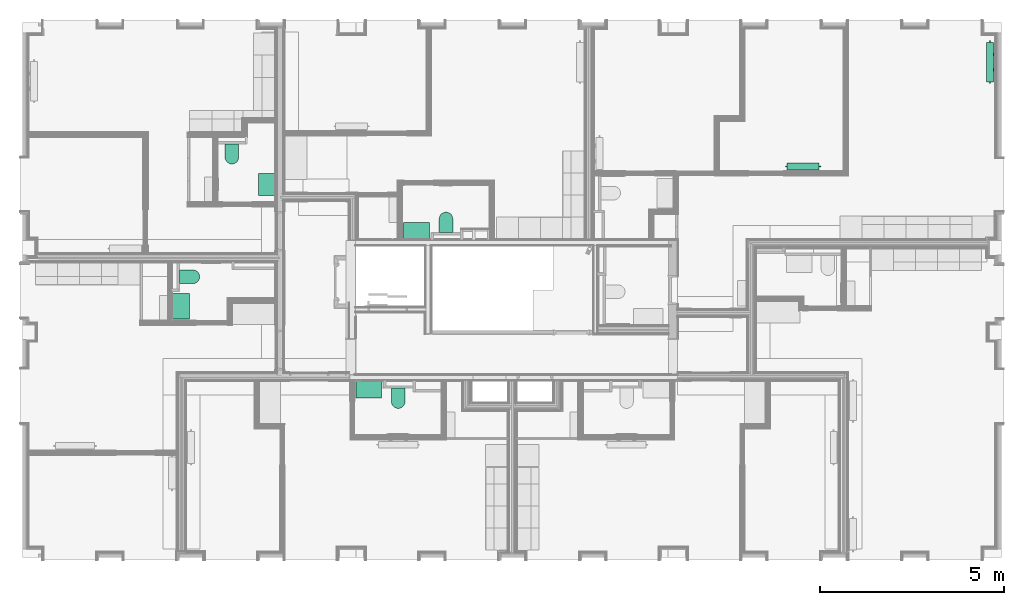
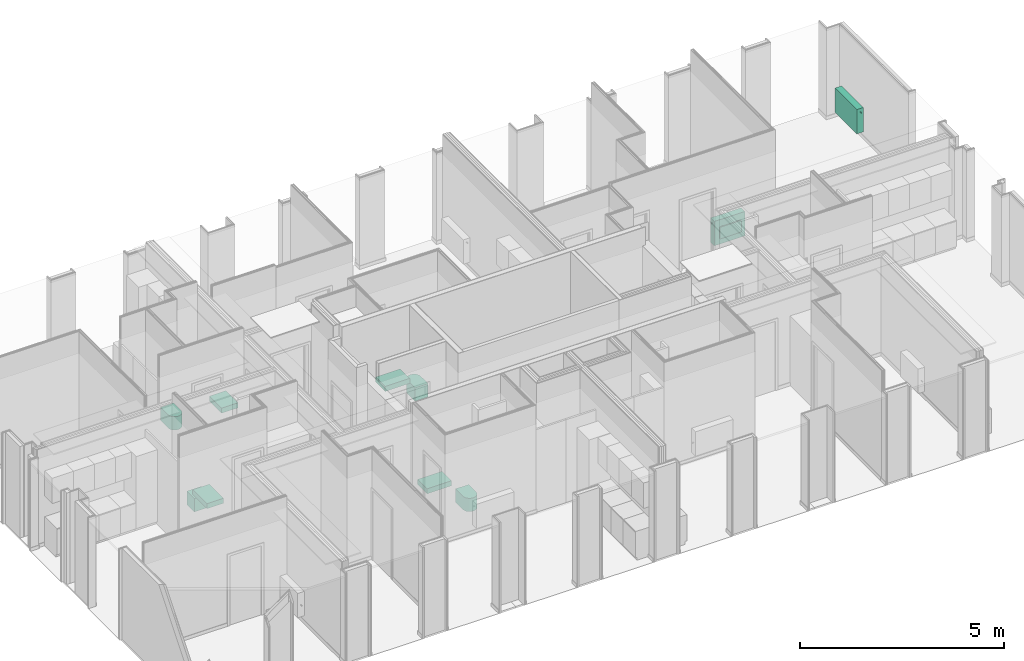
# One storey, part 61 of 65: 10 flow terminals.
"""IFC2X3 building model written with IfcOpenShell, lengths in metres."""

import ifcopenshell
import ifcopenshell.guid

model = None  # the IFC model being written
_history = None  # IfcOwnerHistory: only IFC2X3 demands one
_inside = {}  # id of a spatial element -> (the spatial element, [elements in it])
_under = {}  # id of a project, library or spatial element -> (it, [spatial elements below it])
_declared = {}  # id of a project -> (the project, [libraries it declares])
_typed = {}  # id of a type object -> (the type object, [elements of that type])
_made_of = {}  # id of a material, layer set ... -> (it, [elements and type objects made of it])


def new_model(schema):
    """Start an empty IFC model of exactly this schema.

    Asked for "IFC4X3", IfcOpenShell would pick the latest addendum, in which some entities
    have other attributes; the version numbers below select the first issue.
    IFC2X3 requires an IfcOwnerHistory on every rooted entity: one is made here for all.
    """
    global model, _history
    if schema == "IFC4X3":
        model = ifcopenshell.file(schema_version=(4, 3, 0, 0))
    else:
        model = ifcopenshell.file(schema=schema)
    _inside.clear()
    _under.clear()
    _declared.clear()
    _typed.clear()
    _made_of.clear()
    _history = None
    if model.schema == "IFC2X3":
        org = make("IfcOrganization", Name="unknown")
        user = make(
            "IfcPersonAndOrganization",
            ThePerson=make("IfcPerson", FamilyName="unknown"),
            TheOrganization=org,
        )
        app = make(
            "IfcApplication",
            ApplicationDeveloper=org,
            Version="unknown",
            ApplicationFullName="unknown",
            ApplicationIdentifier="unknown",
        )
        _history = make(
            "IfcOwnerHistory",
            OwningUser=user,
            OwningApplication=app,
            ChangeAction="ADDED",
            CreationDate=0,
        )
    return model


def make(cls, **values):
    """One entity of the class cls with the attributes given. An attribute that is None is left unset."""
    return model.create_entity(
        cls, **{name: value for name, value in values.items() if value is not None}
    )


def entity(cls, *values):
    """Any entity or typed value of the class cls, its attributes in the order of the schema. None: left unset."""
    e = model.create_entity(cls)
    for i, value in enumerate(values):
        if value is not None:
            e[i] = value
    return e


def rooted(cls, **values):
    """An entity with a GlobalId (a new one), such as an element, a storey or a relation."""
    return make(cls, GlobalId=ifcopenshell.guid.new(), OwnerHistory=_history, **values)


def si_unit(unit_type, name, prefix=None):
    """IfcSIUnit, for example si_unit("LENGTHUNIT", "METRE", prefix="MILLI")."""
    return make("IfcSIUnit", UnitType=unit_type, Prefix=prefix, Name=name)


def converted_unit(unit_type, name, factor, base, dimensions=None, offset=None):
    """IfcConversionBasedUnit, such as the inch: factor (a typed value) times the base unit."""
    return make(
        "IfcConversionBasedUnit"
        if offset is None
        else "IfcConversionBasedUnitWithOffset",
        ConversionOffset=offset,
        Dimensions=None
        if dimensions is None
        else entity("IfcDimensionalExponents", *dimensions),
        UnitType=unit_type,
        Name=name,
        ConversionFactor=make(
            "IfcMeasureWithUnit", ValueComponent=factor, UnitComponent=base
        ),
    )


def derived_unit(unit_type, elements):
    """IfcDerivedUnit: a product of units, each with its exponent."""
    return make(
        "IfcDerivedUnit",
        Elements=[
            make("IfcDerivedUnitElement", Unit=unit, Exponent=power)
            for unit, power in elements
        ],
        UnitType=unit_type,
    )


def money_unit(currency):
    """IfcMonetaryUnit."""
    return make("IfcMonetaryUnit", Currency=currency)


def assignment(units):
    """IfcUnitAssignment: the units of a project."""
    return None if units is None else make("IfcUnitAssignment", Units=units)


def point(xyz):
    """IfcCartesianPoint."""
    return None if xyz is None else make("IfcCartesianPoint", Coordinates=xyz)


def direction(xyz):
    """IfcDirection."""
    return None if xyz is None else make("IfcDirection", DirectionRatios=xyz)


def frame(location, z_axis=None, x_axis=None):
    """IfcAxis2Placement3D, a coordinate frame: its origin and axes. An axis left out is left unset."""
    return make(
        "IfcAxis2Placement3D",
        Location=point(location),
        Axis=direction(z_axis),
        RefDirection=direction(x_axis),
    )


def origin_with_axes():
    """The frame at (0, 0, 0) with the z axis (0, 0, 1) and the x axis (1, 0, 0) written out."""
    return frame((0.0, 0.0, 0.0), z_axis=(0.0, 0.0, 1.0), x_axis=(1.0, 0.0, 0.0))


def place(relative_to, where):
    """IfcLocalPlacement: puts the frame where relative to a parent placement (None: the world)."""
    return make(
        "IfcLocalPlacement", PlacementRelTo=relative_to, RelativePlacement=where
    )


def context(
    kind, dimensions, precision=None, world=None, true_north=None, identifier=None
):
    """IfcGeometricRepresentationContext, for example the 3D "Model" context."""
    return make(
        "IfcGeometricRepresentationContext",
        ContextIdentifier=identifier,
        ContextType=kind,
        CoordinateSpaceDimension=dimensions,
        Precision=precision,
        WorldCoordinateSystem=world,
        TrueNorth=true_north,
    )


def subcontext(parent, identifier, kind, view, scale=None):
    """IfcGeometricRepresentationSubContext, for example "Body" below "Model"."""
    return make(
        "IfcGeometricRepresentationSubContext",
        ContextIdentifier=identifier,
        ContextType=kind,
        ParentContext=parent,
        TargetScale=scale,
        TargetView=view,
    )


def project(units=None, contexts=None):
    """IfcProject with its units and contexts."""
    return rooted(
        "IfcProject",
        Name="project",
        RepresentationContexts=contexts,
        UnitsInContext=assignment(units),
    )


def spatial(cls, under=None, at=None, **own):
    """A site, building, storey or space (cls), placed at a placement, below another one or the project."""
    s = rooted(cls, ObjectPlacement=at, **own)
    if under is not None:
        _under.setdefault(under.id(), (under, []))[1].append(s)
    return s


def faces_of(points, faces, orient=None, outer=None):
    """IfcFace entities. A face is a list of loops; a loop is a list of indices into points, from 0.

    orient and outer hold one flag for each loop. By default every Orientation is true, the
    first loop of a face is its IfcFaceOuterBound and the others are IfcFaceBound.
    """
    made = []
    for i, loops in enumerate(faces):
        bounds = []
        for j, loop in enumerate(loops):
            is_outer = j == 0 if outer is None else outer[i][j]
            bounds.append(
                make(
                    "IfcFaceOuterBound" if is_outer else "IfcFaceBound",
                    Bound=make("IfcPolyLoop", Polygon=[points[k] for k in loop]),
                    Orientation=True if orient is None else orient[i][j],
                )
            )
        made.append(make("IfcFace", Bounds=bounds))
    return made


def open_shell(faces, orient=None, outer=None):
    """The faces of one IfcOpenShell. surface_model builds it on its shared points."""
    return ("IfcOpenShell", faces, orient, outer)


def faceted_brep(points, faces, orient=None, outer=None, voids=None):
    """IfcFacetedBrep: a solid bounded by flat faces; with voids (closed shells), ...WithVoids."""
    shared = [point(p) for p in points]
    hull = make("IfcClosedShell", CfsFaces=faces_of(shared, faces, orient, outer))
    if voids is None:
        return make("IfcFacetedBrep", Outer=hull)
    return make(
        "IfcFacetedBrepWithVoids",
        Outer=hull,
        Voids=[
            make(cls, CfsFaces=faces_of(shared, fs, o, b)) for cls, fs, o, b in voids
        ],
    )


def surface_model(cls, points, shells):
    """IfcFaceBasedSurfaceModel or IfcShellBasedSurfaceModel (cls): surfaces that need not close."""
    shared = [point(p) for p in points]
    made = [make(c, CfsFaces=faces_of(shared, fs, o, b)) for c, fs, o, b in shells]
    if cls == "IfcFaceBasedSurfaceModel":
        return make(cls, FbsmFaces=made)
    return make(cls, SbsmBoundary=made)


def shape(context_of_items, identifier, shape_type, items):
    """IfcShapeRepresentation: the items that make up one representation, for example the "Body"."""
    return make(
        "IfcShapeRepresentation",
        ContextOfItems=context_of_items,
        RepresentationIdentifier=identifier,
        RepresentationType=shape_type,
        Items=items,
    )


def material(Name=None, Category=None):
    """IfcMaterial."""
    return make("IfcMaterial", Name=Name, Category=Category)


def made_of(thing, what):
    """Note that an element or type object is made of a material, layer set ...; save() writes the relation."""
    if what is not None:
        _made_of.setdefault(what.id(), (what, []))[1].append(thing)
    return thing


def type_object(cls, material=None, **own):
    """A type object (cls), such as IfcWallType, which elements share."""
    return made_of(rooted(cls, **own), material)


def element(
    cls,
    number,
    at=None,
    inside=None,
    cuts=None,
    type_object=None,
    material=None,
    context=None,
    identifier="Body",
    shape_type=None,
    held_by="IfcProductDefinitionShape",
    body=None,
    shapes=None,
    **own,
):
    """One element of the class cls, such as IfcWall. Its Tag is "e" and its number.

    at: its placement. inside: the storey or other place that contains it. cuts: it is an
    opening in that element (IfcRelVoidsElement). A single representation is given by context,
    identifier, shape_type and body (its items); several are given by shapes. held_by: the class
    of the entity that holds the representations. save() writes the other relations.
    """
    e = rooted(cls, Tag="e%d" % number, ObjectPlacement=at, **own)
    if body is not None:
        shapes = [shape(context, identifier, shape_type, body)]
    if shapes is not None:
        e.Representation = make(held_by, Representations=shapes)
    if inside is not None:
        _inside.setdefault(inside.id(), (inside, []))[1].append(e)
    if cuts is not None:
        rooted(
            "IfcRelVoidsElement", RelatingBuildingElement=cuts, RelatedOpeningElement=e
        )
    if type_object is not None:
        _typed.setdefault(type_object.id(), (type_object, []))[1].append(e)
    return made_of(e, material)


def aggregate(whole, parts):
    """IfcRelAggregates: a whole, such as a stair, and the parts it consists of."""
    return rooted("IfcRelAggregates", RelatingObject=whole, RelatedObjects=parts)


def save(model, path):
    """Write the relations noted so far, then the file.

    IfcRelAggregates (storeys below a building ...), IfcRelContainedInSpatialStructure (elements
    in a storey), IfcRelDefinesByType, IfcRelAssociatesMaterial and IfcRelDeclares: one each for
    every whole, place, type object, material and project.
    """
    for whole, parts in _under.values():
        aggregate(whole, parts)
    for where, things in _inside.values():
        rooted(
            "IfcRelContainedInSpatialStructure",
            RelatedElements=things,
            RelatingStructure=where,
        )
    for kind, things in _typed.values():
        rooted("IfcRelDefinesByType", RelatedObjects=things, RelatingType=kind)
    for what, things in _made_of.values():
        rooted("IfcRelAssociatesMaterial", RelatedObjects=things, RelatingMaterial=what)
    for by, libraries in _declared.values():
        rooted("IfcRelDeclares", RelatingContext=by, RelatedDefinitions=libraries)
    model.write(path)


model = new_model("IFC2X3")

# Units and contexts
model_context = context("Model", 3, precision=1e-05, world=origin_with_axes(), true_north=direction((0.0, 1.0)))
body_context = subcontext(model_context, "Body", "Model", "MODEL_VIEW", scale=1.0)
ifc_project = project(units=[si_unit("LENGTHUNIT", "METRE"), si_unit("AREAUNIT", "SQUARE_METRE"), si_unit("VOLUMEUNIT", "CUBIC_METRE"), si_unit("ABSORBEDDOSEUNIT", "GRAY"), si_unit("AMOUNTOFSUBSTANCEUNIT", "MOLE"), si_unit("DOSEEQUIVALENTUNIT", "SIEVERT"), si_unit("ELECTRICCAPACITANCEUNIT", "FARAD"), si_unit("ELECTRICCHARGEUNIT", "COULOMB"), si_unit("ELECTRICCONDUCTANCEUNIT", "SIEMENS"), si_unit("ELECTRICCURRENTUNIT", "AMPERE"), si_unit("ELECTRICRESISTANCEUNIT", "OHM"), si_unit("ELECTRICVOLTAGEUNIT", "VOLT"), si_unit("ENERGYUNIT", "JOULE"), si_unit("FORCEUNIT", "NEWTON"), si_unit("FREQUENCYUNIT", "HERTZ"), si_unit("ILLUMINANCEUNIT", "LUX"), si_unit("INDUCTANCEUNIT", "HENRY"), si_unit("LUMINOUSFLUXUNIT", "LUMEN"), si_unit("LUMINOUSINTENSITYUNIT", "CANDELA"), si_unit("MAGNETICFLUXDENSITYUNIT", "TESLA"), si_unit("MAGNETICFLUXUNIT", "WEBER"), si_unit("MASSUNIT", "GRAM"), converted_unit("PLANEANGLEUNIT", "degree", entity("IfcReal", 0.0174532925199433), si_unit("PLANEANGLEUNIT", "RADIAN"), dimensions=[0, 0, 0, 0, 0, 0, 0]), si_unit("POWERUNIT", "WATT"), si_unit("PRESSUREUNIT", "PASCAL"), si_unit("RADIOACTIVITYUNIT", "BECQUEREL"), si_unit("SOLIDANGLEUNIT", "STERADIAN"), si_unit("THERMODYNAMICTEMPERATUREUNIT", "KELVIN"), si_unit("TIMEUNIT", "SECOND"), derived_unit("ACCELERATIONUNIT", [(si_unit("LENGTHUNIT", "METRE"), 1), (si_unit("TIMEUNIT", "SECOND"), -2)]), derived_unit("ANGULARVELOCITYUNIT", [(converted_unit("PLANEANGLEUNIT", "degree", entity("IfcReal", 0.0174532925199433), si_unit("PLANEANGLEUNIT", "RADIAN"), dimensions=[0, 0, 0, 0, 0, 0, 0]), 1), (si_unit("TIMEUNIT", "SECOND"), -1)]), derived_unit("CURVATUREUNIT", [(converted_unit("PLANEANGLEUNIT", "degree", entity("IfcReal", 0.0174532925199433), si_unit("PLANEANGLEUNIT", "RADIAN"), dimensions=[0, 0, 0, 0, 0, 0, 0]), 1), (si_unit("LENGTHUNIT", "METRE"), -1)]), derived_unit("DYNAMICVISCOSITYUNIT", [(si_unit("PRESSUREUNIT", "PASCAL"), 1), (si_unit("TIMEUNIT", "SECOND"), 1)]), derived_unit("HEATFLUXDENSITYUNIT", [(si_unit("POWERUNIT", "WATT"), 1), (si_unit("LENGTHUNIT", "METRE"), -2)]), derived_unit("HEATINGVALUEUNIT", [(si_unit("ENERGYUNIT", "JOULE"), 1), (si_unit("MASSUNIT", "GRAM"), -1)]), derived_unit("INTEGERCOUNTRATEUNIT", [(si_unit("TIMEUNIT", "SECOND"), -1)]), derived_unit("IONCONCENTRATIONUNIT", [(si_unit("MASSUNIT", "GRAM"), 1), (si_unit("VOLUMEUNIT", "CUBIC_METRE"), -1)]), derived_unit("ISOTHERMALMOISTURECAPACITYUNIT", [(si_unit("VOLUMEUNIT", "CUBIC_METRE"), 1), (si_unit("MASSUNIT", "GRAM"), -1)]), derived_unit("KINEMATICVISCOSITYUNIT", [(si_unit("AREAUNIT", "SQUARE_METRE"), 1), (si_unit("TIMEUNIT", "SECOND"), -1)]), derived_unit("LINEARFORCEUNIT", [(si_unit("FORCEUNIT", "NEWTON"), 1), (si_unit("LENGTHUNIT", "METRE"), -1)]), derived_unit("LINEARMOMENTUNIT", [(si_unit("FORCEUNIT", "NEWTON"), 1), (si_unit("LENGTHUNIT", "METRE"), -1)]), derived_unit("LINEARSTIFFNESSUNIT", [(si_unit("FORCEUNIT", "NEWTON"), 1), (si_unit("LENGTHUNIT", "METRE"), -1)]), derived_unit("LINEARVELOCITYUNIT", [(si_unit("LENGTHUNIT", "METRE"), 1), (si_unit("TIMEUNIT", "SECOND"), -1)]), derived_unit("LUMINOUSINTENSITYDISTRIBUTIONUNIT", [(si_unit("LUMINOUSINTENSITYUNIT", "CANDELA"), 1), (si_unit("LUMINOUSFLUXUNIT", "LUMEN"), -1)]), derived_unit("MASSDENSITYUNIT", [(si_unit("MASSUNIT", "GRAM"), 1), (si_unit("VOLUMEUNIT", "CUBIC_METRE"), -1)]), derived_unit("MASSFLOWRATEUNIT", [(si_unit("MASSUNIT", "GRAM"), 1), (si_unit("TIMEUNIT", "SECOND"), -1)]), derived_unit("MASSPERLENGTHUNIT", [(si_unit("MASSUNIT", "GRAM"), 1), (si_unit("LENGTHUNIT", "METRE"), -1)]), derived_unit("MODULUSOFELASTICITYUNIT", [(si_unit("FORCEUNIT", "NEWTON"), 1), (si_unit("AREAUNIT", "SQUARE_METRE"), -1)]), derived_unit("MODULUSOFLINEARSUBGRADEREACTIONUNIT", [(si_unit("FORCEUNIT", "NEWTON"), 1), (si_unit("LENGTHUNIT", "METRE"), -2)]), derived_unit("MODULUSOFROTATIONALSUBGRADEREACTIONUNIT", [(si_unit("FORCEUNIT", "NEWTON"), 1), (si_unit("LENGTHUNIT", "METRE"), 1)]), derived_unit("MODULUSOFSUBGRADEREACTIONUNIT", [(si_unit("FORCEUNIT", "NEWTON"), 1), (si_unit("VOLUMEUNIT", "CUBIC_METRE"), -1)]), derived_unit("MOISTUREDIFFUSIVITYUNIT", [(si_unit("VOLUMEUNIT", "CUBIC_METRE"), 1), (si_unit("TIMEUNIT", "SECOND"), -1)]), derived_unit("MOLECULARWEIGHTUNIT", [(si_unit("MASSUNIT", "GRAM"), 1), (si_unit("AMOUNTOFSUBSTANCEUNIT", "MOLE"), -1)]), derived_unit("PLANARFORCEUNIT", [(si_unit("FORCEUNIT", "NEWTON"), 1), (si_unit("LENGTHUNIT", "METRE"), -2)]), derived_unit("ROTATIONALFREQUENCYUNIT", [(si_unit("TIMEUNIT", "SECOND"), -1)]), derived_unit("ROTATIONALMASSUNIT", [(si_unit("MASSUNIT", "GRAM"), 1), (si_unit("LENGTHUNIT", "METRE"), 2)]), derived_unit("ROTATIONALSTIFFNESSUNIT", [(si_unit("FORCEUNIT", "NEWTON"), 1), (si_unit("LENGTHUNIT", "METRE"), 1), (converted_unit("PLANEANGLEUNIT", "degree", entity("IfcReal", 0.0174532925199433), si_unit("PLANEANGLEUNIT", "RADIAN"), dimensions=[0, 0, 0, 0, 0, 0, 0]), -1)]), derived_unit("SECTIONAREAINTEGRALUNIT", [(si_unit("LENGTHUNIT", "METRE"), 5)]), derived_unit("SECTIONMODULUSUNIT", [(si_unit("LENGTHUNIT", "METRE"), 3)]), derived_unit("SHEARMODULUSUNIT", [(si_unit("FORCEUNIT", "NEWTON"), 1), (si_unit("AREAUNIT", "SQUARE_METRE"), -1)]), derived_unit("SOUNDPOWERUNIT", [(si_unit("ENERGYUNIT", "JOULE"), 1), (si_unit("TIMEUNIT", "SECOND"), -1)]), derived_unit("SPECIFICHEATCAPACITYUNIT", [(si_unit("FORCEUNIT", "NEWTON"), 1), (si_unit("MASSUNIT", "GRAM"), -1), (si_unit("THERMODYNAMICTEMPERATUREUNIT", "KELVIN"), -1)]), derived_unit("TEMPERATUREGRADIENTUNIT", [(si_unit("THERMODYNAMICTEMPERATUREUNIT", "KELVIN"), 1), (si_unit("LENGTHUNIT", "METRE"), -1)]), derived_unit("THERMALADMITTANCEUNIT", [(si_unit("POWERUNIT", "WATT"), 1), (si_unit("AREAUNIT", "SQUARE_METRE"), -1), (si_unit("THERMODYNAMICTEMPERATUREUNIT", "KELVIN"), -1)]), derived_unit("THERMALCONDUCTANCEUNIT", [(si_unit("POWERUNIT", "WATT"), 1), (si_unit("LENGTHUNIT", "METRE"), -1), (si_unit("THERMODYNAMICTEMPERATUREUNIT", "KELVIN"), -1)]), derived_unit("THERMALEXPANSIONCOEFFICIENTUNIT", [(si_unit("THERMODYNAMICTEMPERATUREUNIT", "KELVIN"), -1)]), derived_unit("THERMALRESISTANCEUNIT", [(si_unit("AREAUNIT", "SQUARE_METRE"), 1), (si_unit("POWERUNIT", "WATT"), -1)]), derived_unit("THERMALTRANSMITTANCEUNIT", [(si_unit("POWERUNIT", "WATT"), 1), (si_unit("AREAUNIT", "SQUARE_METRE"), -1), (si_unit("THERMODYNAMICTEMPERATUREUNIT", "KELVIN"), -1)]), derived_unit("TORQUEUNIT", [(si_unit("FORCEUNIT", "NEWTON"), 1), (si_unit("LENGTHUNIT", "METRE"), 1)]), derived_unit("VAPORPERMEABILITYUNIT", [(si_unit("MASSUNIT", "GRAM"), 1), (si_unit("TIMEUNIT", "SECOND"), -1)]), derived_unit("VOLUMETRICFLOWRATEUNIT", [(si_unit("VOLUMEUNIT", "CUBIC_METRE"), 1), (si_unit("TIMEUNIT", "SECOND"), -1)]), derived_unit("WARPINGCONSTANTUNIT", [(si_unit("LENGTHUNIT", "METRE"), 6)]), derived_unit("WARPINGMOMENTUNIT", [(si_unit("FORCEUNIT", "NEWTON"), 1), (si_unit("LENGTHUNIT", "METRE"), 2)]), money_unit("GBP")], contexts=[model_context])

# Site, building, storey, space
site_placement = place(None, origin_with_axes())
site = spatial("IfcSite", under=ifc_project, at=site_placement, Name="Site", CompositionType="ELEMENT")
building_placement = place(site_placement, origin_with_axes())
building = spatial("IfcBuilding", under=site, at=building_placement, Name="Building01", CompositionType="ELEMENT")
storey_placement = place(building_placement, frame((0.0, 0.0, 8.64), z_axis=(0.0, 0.0, 1.0), x_axis=(1.0, 0.0, 0.0)))
storey = spatial("IfcBuildingStorey", under=building, at=storey_placement, Name="2F", CompositionType="ELEMENT", Elevation=8.64)
space_1_placement = place(storey_placement, frame((22.624794, 8.82, 0.017975), z_axis=(0.0, 0.0, 1.0), x_axis=(1.0, 0.0, 0.0)))
space_1 = spatial("IfcSpace", under=storey, at=space_1_placement, Name="k/d/l", CompositionType="ELEMENT", InteriorOrExteriorSpace="NOTDEFINED")

# Flow terminal
ifc_material = material(Name="M_BSUK_Ventilation")
space_heater_type = type_object("IfcSpaceHeaterType", Name="M-BmvRadiatorpanel-Panel", PredefinedType="NOTDEFINED")
flow_terminal_1_placement = place(storey_placement, frame((26.50175, 14.187, 0.68), z_axis=(0.0, 0.0, 1.0), x_axis=(0.0, -1.0, 0.0)))
element("IfcFlowTerminal", 1, at=flow_terminal_1_placement, inside=space_1, type_object=space_heater_type, material=ifc_material, Name="M-BmvRadiatorpanel-Panel", ObjectType="M-BmvRadiatorpanel-Panel", context=body_context, shape_type="SurfaceModel", body=[
    surface_model("IfcShellBasedSurfaceModel", [(1.069, -0.0925, 0.365), (1.069, 0.0925, 0.365), (0.0, 0.0925, 0.365), (0.0, -0.0925, 0.365), (1.069, -0.0925, -0.365), (1.069, 0.0925, -0.365), (0.0, -0.0925, -0.365), (0.0, 0.0925, -0.365), (0.2345, 0.12025, 0.175), (0.8345, 0.12025, 0.175), (0.8345, 0.14525, 0.175), (0.2345, 0.14525, 0.175), (0.8345, 0.14525, -0.175), (0.2345, 0.14525, -0.175), (0.8345, 0.12025, -0.175), (0.2345, 0.12025, -0.175), (0.3245, 0.0925, 0.0775), (0.3245, 0.12025, 0.0775), (0.341721, 0.12025, 0.080925), (0.341721, 0.0925, 0.080925), (0.35632, 0.12025, 0.09068), (0.35632, 0.0925, 0.09068), (0.366075, 0.12025, 0.105279), (0.366075, 0.0925, 0.105279), (0.3695, 0.12025, 0.1225), (0.3695, 0.0925, 0.1225), (0.366075, 0.12025, 0.139721), (0.366075, 0.0925, 0.139721), (0.35632, 0.12025, 0.15432), (0.35632, 0.0925, 0.15432), (0.341721, 0.12025, 0.164075), (0.341721, 0.0925, 0.164075), (0.3245, 0.12025, 0.1675), (0.3245, 0.0925, 0.1675), (0.307279, 0.12025, 0.164075), (0.307279, 0.0925, 0.164075), (0.29268, 0.12025, 0.15432), (0.29268, 0.0925, 0.15432), (0.282925, 0.12025, 0.139721), (0.282925, 0.0925, 0.139721), (0.2795, 0.12025, 0.1225), (0.2795, 0.0925, 0.1225), (0.282925, 0.12025, 0.105279), (0.282925, 0.0925, 0.105279), (0.29268, 0.12025, 0.09068), (0.29268, 0.0925, 0.09068), (0.307279, 0.12025, 0.080925), (0.307279, 0.0925, 0.080925), (0.7445, 0.0925, 0.0775), (0.7445, 0.12025, 0.0775), (0.761721, 0.12025, 0.080925), (0.761721, 0.0925, 0.080925), (0.77632, 0.12025, 0.09068), (0.77632, 0.0925, 0.09068), (0.786075, 0.12025, 0.105279), (0.786075, 0.0925, 0.105279), (0.7895, 0.12025, 0.1225), (0.7895, 0.0925, 0.1225), (0.786075, 0.12025, 0.139721), (0.786075, 0.0925, 0.139721), (0.77632, 0.12025, 0.15432), (0.77632, 0.0925, 0.15432), (0.761721, 0.12025, 0.164075), (0.761721, 0.0925, 0.164075), (0.7445, 0.12025, 0.1675), (0.7445, 0.0925, 0.1675), (0.727279, 0.12025, 0.164075), (0.727279, 0.0925, 0.164075), (0.71268, 0.12025, 0.15432), (0.71268, 0.0925, 0.15432), (0.702925, 0.12025, 0.139721), (0.702925, 0.0925, 0.139721), (0.6995, 0.12025, 0.1225), (0.6995, 0.0925, 0.1225), (0.702925, 0.12025, 0.105279), (0.702925, 0.0925, 0.105279), (0.71268, 0.12025, 0.09068), (0.71268, 0.0925, 0.09068), (0.727279, 0.12025, 0.080925), (0.727279, 0.0925, 0.080925), (-0.05, 0.0, -0.0225), (0.0, 0.0, -0.0225), (0.0, -0.004784, -0.021548), (-0.05, -0.004784, -0.021548), (0.0, -0.008839, -0.018839), (-0.05, -0.008839, -0.018839), (0.0, -0.011548, -0.014784), (-0.05, -0.011548, -0.014784), (0.0, -0.0125, -0.01), (-0.05, -0.0125, -0.01), (0.0, -0.011548, -0.005216), (-0.05, -0.011548, -0.005216), (0.0, -0.008839, -0.001161), (-0.05, -0.008839, -0.001161), (0.0, -0.004784, 0.001548), (-0.05, -0.004784, 0.001548), (0.0, 0.0, 0.0025), (-0.05, 0.0, 0.0025), (0.0, 0.004784, 0.001548), (-0.05, 0.004784, 0.001548), (0.0, 0.008839, -0.001161), (-0.05, 0.008839, -0.001161), (0.0, 0.011548, -0.005216), (-0.05, 0.011548, -0.005216), (0.0, 0.0125, -0.01), (-0.05, 0.0125, -0.01), (0.0, 0.011548, -0.014784), (-0.05, 0.011548, -0.014784), (0.0, 0.008839, -0.018839), (-0.05, 0.008839, -0.018839), (0.0, 0.004784, -0.021548), (-0.05, 0.004784, -0.021548), (1.119, 0.0, 0.2525), (1.069, 0.0, 0.2525), (1.069, 0.004784, 0.253452), (1.119, 0.004784, 0.253452), (1.069, 0.008839, 0.256161), (1.119, 0.008839, 0.256161), (1.069, 0.011548, 0.260216), (1.119, 0.011548, 0.260216), (1.069, 0.0125, 0.265), (1.119, 0.0125, 0.265), (1.069, 0.011548, 0.269784), (1.119, 0.011548, 0.269784), (1.069, 0.008839, 0.273839), (1.119, 0.008839, 0.273839), (1.069, 0.004784, 0.276548), (1.119, 0.004784, 0.276548), (1.069, 0.0, 0.2775), (1.119, 0.0, 0.2775), (1.069, -0.004784, 0.276548), (1.119, -0.004784, 0.276548), (1.069, -0.008839, 0.273839), (1.119, -0.008839, 0.273839), (1.069, -0.011548, 0.269784), (1.119, -0.011548, 0.269784), (1.069, -0.0125, 0.265), (1.119, -0.0125, 0.265), (1.069, -0.011548, 0.260216), (1.119, -0.011548, 0.260216), (1.069, -0.008839, 0.256161), (1.119, -0.008839, 0.256161), (1.069, -0.004784, 0.253452), (1.119, -0.004784, 0.253452)], [open_shell([[[0, 1, 2, 3]], [[4, 5, 1, 0]], [[6, 7, 5, 4]], [[3, 2, 7, 6]], [[1, 5, 7, 2]], [[3, 6, 4, 0]], [[8, 9, 10, 11]], [[11, 10, 12, 13]], [[13, 12, 14, 15]], [[15, 14, 9, 8]], [[9, 14, 12, 10]], [[11, 13, 15, 8]], [[16, 17, 18, 19]], [[19, 18, 20, 21]], [[21, 20, 22, 23]], [[23, 22, 24, 25]], [[25, 24, 26, 27]], [[27, 26, 28, 29]], [[29, 28, 30, 31]], [[31, 30, 32, 33]], [[33, 32, 34, 35]], [[35, 34, 36, 37]], [[37, 36, 38, 39]], [[39, 38, 40, 41]], [[41, 40, 42, 43]], [[43, 42, 44, 45]], [[45, 44, 46, 47]], [[47, 46, 17, 16]], [[48, 49, 50, 51]], [[51, 50, 52, 53]], [[53, 52, 54, 55]], [[55, 54, 56, 57]], [[57, 56, 58, 59]], [[59, 58, 60, 61]], [[61, 60, 62, 63]], [[63, 62, 64, 65]], [[65, 64, 66, 67]], [[67, 66, 68, 69]], [[69, 68, 70, 71]], [[71, 70, 72, 73]], [[73, 72, 74, 75]], [[75, 74, 76, 77]], [[77, 76, 78, 79]], [[79, 78, 49, 48]], [[80, 81, 82, 83]], [[83, 82, 84, 85]], [[85, 84, 86, 87]], [[87, 86, 88, 89]], [[89, 88, 90, 91]], [[91, 90, 92, 93]], [[93, 92, 94, 95]], [[95, 94, 96, 97]], [[97, 96, 98, 99]], [[99, 98, 100, 101]], [[101, 100, 102, 103]], [[103, 102, 104, 105]], [[105, 104, 106, 107]], [[107, 106, 108, 109]], [[109, 108, 110, 111]], [[111, 110, 81, 80]], [[112, 113, 114, 115]], [[115, 114, 116, 117]], [[117, 116, 118, 119]], [[119, 118, 120, 121]], [[121, 120, 122, 123]], [[123, 122, 124, 125]], [[125, 124, 126, 127]], [[127, 126, 128, 129]], [[129, 128, 130, 131]], [[131, 130, 132, 133]], [[133, 132, 134, 135]], [[135, 134, 136, 137]], [[137, 136, 138, 139]], [[139, 138, 140, 141]], [[141, 140, 142, 143]], [[143, 142, 113, 112]]])]),
])

# Space
space_2_placement = place(storey_placement, frame((15.83, 8.82, 0.017975), z_axis=(0.0, 0.0, 1.0), x_axis=(0.0, -1.0, 0.0)))
space_2 = spatial("IfcSpace", under=storey, at=space_2_placement, Name="09", CompositionType="ELEMENT", InteriorOrExteriorSpace="NOTDEFINED")

# Flow terminal
flow_terminal_2_placement = place(storey_placement, frame((21.844284, 10.81025, 0.68), z_axis=(0.0, 0.0, 1.0), x_axis=(-1.0, 0.0, 0.0)))
element("IfcFlowTerminal", 2, at=flow_terminal_2_placement, inside=space_2, type_object=space_heater_type, material=ifc_material, Name="M-BmvRadiatorpanel-Panel", ObjectType="M-BmvRadiatorpanel-Panel", context=body_context, shape_type="SurfaceModel", body=[
    surface_model("IfcShellBasedSurfaceModel", [(0.865, -0.0925, 0.365), (0.865, 0.0925, 0.365), (0.0, 0.0925, 0.365), (0.0, -0.0925, 0.365), (0.865, -0.0925, -0.365), (0.865, 0.0925, -0.365), (0.0, -0.0925, -0.365), (0.0, 0.0925, -0.365), (0.1325, 0.12025, 0.175), (0.7325, 0.12025, 0.175), (0.7325, 0.14525, 0.175), (0.1325, 0.14525, 0.175), (0.7325, 0.14525, -0.175), (0.1325, 0.14525, -0.175), (0.7325, 0.12025, -0.175), (0.1325, 0.12025, -0.175), (0.2225, 0.0925, 0.0775), (0.2225, 0.12025, 0.0775), (0.239721, 0.12025, 0.080925), (0.239721, 0.0925, 0.080925), (0.25432, 0.12025, 0.09068), (0.25432, 0.0925, 0.09068), (0.264075, 0.12025, 0.105279), (0.264075, 0.0925, 0.105279), (0.2675, 0.12025, 0.1225), (0.2675, 0.0925, 0.1225), (0.264075, 0.12025, 0.139721), (0.264075, 0.0925, 0.139721), (0.25432, 0.12025, 0.15432), (0.25432, 0.0925, 0.15432), (0.239721, 0.12025, 0.164075), (0.239721, 0.0925, 0.164075), (0.2225, 0.12025, 0.1675), (0.2225, 0.0925, 0.1675), (0.205279, 0.12025, 0.164075), (0.205279, 0.0925, 0.164075), (0.19068, 0.12025, 0.15432), (0.19068, 0.0925, 0.15432), (0.180925, 0.12025, 0.139721), (0.180925, 0.0925, 0.139721), (0.1775, 0.12025, 0.1225), (0.1775, 0.0925, 0.1225), (0.180925, 0.12025, 0.105279), (0.180925, 0.0925, 0.105279), (0.19068, 0.12025, 0.09068), (0.19068, 0.0925, 0.09068), (0.205279, 0.12025, 0.080925), (0.205279, 0.0925, 0.080925), (0.6425, 0.0925, 0.0775), (0.6425, 0.12025, 0.0775), (0.659721, 0.12025, 0.080925), (0.659721, 0.0925, 0.080925), (0.67432, 0.12025, 0.09068), (0.67432, 0.0925, 0.09068), (0.684075, 0.12025, 0.105279), (0.684075, 0.0925, 0.105279), (0.6875, 0.12025, 0.1225), (0.6875, 0.0925, 0.1225), (0.684075, 0.12025, 0.139721), (0.684075, 0.0925, 0.139721), (0.67432, 0.12025, 0.15432), (0.67432, 0.0925, 0.15432), (0.659721, 0.12025, 0.164075), (0.659721, 0.0925, 0.164075), (0.6425, 0.12025, 0.1675), (0.6425, 0.0925, 0.1675), (0.625279, 0.12025, 0.164075), (0.625279, 0.0925, 0.164075), (0.61068, 0.12025, 0.15432), (0.61068, 0.0925, 0.15432), (0.600925, 0.12025, 0.139721), (0.600925, 0.0925, 0.139721), (0.5975, 0.12025, 0.1225), (0.5975, 0.0925, 0.1225), (0.600925, 0.12025, 0.105279), (0.600925, 0.0925, 0.105279), (0.61068, 0.12025, 0.09068), (0.61068, 0.0925, 0.09068), (0.625279, 0.12025, 0.080925), (0.625279, 0.0925, 0.080925), (-0.05, 0.0, -0.0225), (0.0, 0.0, -0.0225), (0.0, -0.004784, -0.021548), (-0.05, -0.004784, -0.021548), (0.0, -0.008839, -0.018839), (-0.05, -0.008839, -0.018839), (0.0, -0.011548, -0.014784), (-0.05, -0.011548, -0.014784), (0.0, -0.0125, -0.01), (-0.05, -0.0125, -0.01), (0.0, -0.011548, -0.005216), (-0.05, -0.011548, -0.005216), (0.0, -0.008839, -0.001161), (-0.05, -0.008839, -0.001161), (0.0, -0.004784, 0.001548), (-0.05, -0.004784, 0.001548), (0.0, 0.0, 0.0025), (-0.05, 0.0, 0.0025), (0.0, 0.004784, 0.001548), (-0.05, 0.004784, 0.001548), (0.0, 0.008839, -0.001161), (-0.05, 0.008839, -0.001161), (0.0, 0.011548, -0.005216), (-0.05, 0.011548, -0.005216), (0.0, 0.0125, -0.01), (-0.05, 0.0125, -0.01), (0.0, 0.011548, -0.014784), (-0.05, 0.011548, -0.014784), (0.0, 0.008839, -0.018839), (-0.05, 0.008839, -0.018839), (0.0, 0.004784, -0.021548), (-0.05, 0.004784, -0.021548), (0.915, 0.0, 0.2525), (0.865, 0.0, 0.2525), (0.865, 0.004784, 0.253452), (0.915, 0.004784, 0.253452), (0.865, 0.008839, 0.256161), (0.915, 0.008839, 0.256161), (0.865, 0.011548, 0.260216), (0.915, 0.011548, 0.260216), (0.865, 0.0125, 0.265), (0.915, 0.0125, 0.265), (0.865, 0.011548, 0.269784), (0.915, 0.011548, 0.269784), (0.865, 0.008839, 0.273839), (0.915, 0.008839, 0.273839), (0.865, 0.004784, 0.276548), (0.915, 0.004784, 0.276548), (0.865, 0.0, 0.2775), (0.915, 0.0, 0.2775), (0.865, -0.004784, 0.276548), (0.915, -0.004784, 0.276548), (0.865, -0.008839, 0.273839), (0.915, -0.008839, 0.273839), (0.865, -0.011548, 0.269784), (0.915, -0.011548, 0.269784), (0.865, -0.0125, 0.265), (0.915, -0.0125, 0.265), (0.865, -0.011548, 0.260216), (0.915, -0.011548, 0.260216), (0.865, -0.008839, 0.256161), (0.915, -0.008839, 0.256161), (0.865, -0.004784, 0.253452), (0.915, -0.004784, 0.253452)], [open_shell([[[0, 1, 2, 3]], [[4, 5, 1, 0]], [[6, 7, 5, 4]], [[3, 2, 7, 6]], [[1, 5, 7, 2]], [[3, 6, 4, 0]], [[8, 9, 10, 11]], [[11, 10, 12, 13]], [[13, 12, 14, 15]], [[15, 14, 9, 8]], [[9, 14, 12, 10]], [[11, 13, 15, 8]], [[16, 17, 18, 19]], [[19, 18, 20, 21]], [[21, 20, 22, 23]], [[23, 22, 24, 25]], [[25, 24, 26, 27]], [[27, 26, 28, 29]], [[29, 28, 30, 31]], [[31, 30, 32, 33]], [[33, 32, 34, 35]], [[35, 34, 36, 37]], [[37, 36, 38, 39]], [[39, 38, 40, 41]], [[41, 40, 42, 43]], [[43, 42, 44, 45]], [[45, 44, 46, 47]], [[47, 46, 17, 16]], [[48, 49, 50, 51]], [[51, 50, 52, 53]], [[53, 52, 54, 55]], [[55, 54, 56, 57]], [[57, 56, 58, 59]], [[59, 58, 60, 61]], [[61, 60, 62, 63]], [[63, 62, 64, 65]], [[65, 64, 66, 67]], [[67, 66, 68, 69]], [[69, 68, 70, 71]], [[71, 70, 72, 73]], [[73, 72, 74, 75]], [[75, 74, 76, 77]], [[77, 76, 78, 79]], [[79, 78, 49, 48]], [[80, 81, 82, 83]], [[83, 82, 84, 85]], [[85, 84, 86, 87]], [[87, 86, 88, 89]], [[89, 88, 90, 91]], [[91, 90, 92, 93]], [[93, 92, 94, 95]], [[95, 94, 96, 97]], [[97, 96, 98, 99]], [[99, 98, 100, 101]], [[101, 100, 102, 103]], [[103, 102, 104, 105]], [[105, 104, 106, 107]], [[107, 106, 108, 109]], [[109, 108, 110, 111]], [[111, 110, 81, 80]], [[112, 113, 114, 115]], [[115, 114, 116, 117]], [[117, 116, 118, 119]], [[119, 118, 120, 121]], [[121, 120, 122, 123]], [[123, 122, 124, 125]], [[125, 124, 126, 127]], [[127, 126, 128, 129]], [[129, 128, 130, 131]], [[131, 130, 132, 133]], [[133, 132, 134, 135]], [[135, 134, 136, 137]], [[137, 136, 138, 139]], [[139, 138, 140, 141]], [[141, 140, 142, 143]], [[143, 142, 113, 112]]])]),
])

# Space
space_3_placement = place(storey_placement, frame((5.464669, 11.63067, 0.019436), z_axis=(0.0, 0.0, 1.0), x_axis=(0.0, -1.0, 0.0)))
space_3 = spatial("IfcSpace", under=storey, at=space_3_placement, Name="bath", CompositionType="ELEMENT", InteriorOrExteriorSpace="NOTDEFINED")

# Flow terminal
sanitary_terminal_type_1 = type_object("IfcSanitaryTerminalType", Name="SHE_A-Sink_47x60", PredefinedType="NOTDEFINED")
flow_terminal_3_placement = place(storey_placement, frame((6.829668, 10.32326, 0.825), z_axis=(0.0, 0.0, 1.0), x_axis=(1.0, 0.0, 0.0)))
element("IfcFlowTerminal", 3, at=flow_terminal_3_placement, inside=space_3, type_object=sanitary_terminal_type_1, Name="14", ObjectType="SHE_A-Sink_47x60", context=body_context, shape_type="Brep", body=[
    faceted_brep([(-0.235, 0.3, -0.075), (-0.235, 0.3, 0.075), (0.235, 0.3, 0.075), (0.235, 0.3, -0.075), (-0.235, -0.3, -0.075), (-0.235, -0.3, 0.075), (0.235, -0.3, -0.075), (0.235, -0.3, 0.075)], [[[0, 1, 2, 3]], [[4, 5, 1, 0]], [[6, 7, 5, 4]], [[3, 2, 7, 6]], [[1, 5, 7, 2]], [[3, 6, 4, 0]]]),
])

# Space
space_4_placement = place(storey_placement, frame((7.289669, 14.8, 0.017975), z_axis=(0.0, 0.0, 1.0), x_axis=(0.0, -1.0, 0.0)))
space_4 = spatial("IfcSpace", under=storey, at=space_4_placement, Name="15", CompositionType="ELEMENT", InteriorOrExteriorSpace="NOTDEFINED")

# Flow terminal
sanitary_terminal_type_2 = type_object("IfcSanitaryTerminalType", Name="SHE_A-Toilet_base", PredefinedType="NOTDEFINED")
flow_terminal_4_placement = place(storey_placement, frame((11.693576, 9.295001, 0.2), z_axis=(0.0, 0.0, 1.0), x_axis=(0.0, -1.0, 0.0)))
element("IfcFlowTerminal", 4, at=flow_terminal_4_placement, inside=space_4, type_object=sanitary_terminal_type_2, Name="15", ObjectType="SHE_A-Toilet_base", context=body_context, shape_type="Brep", body=[
    faceted_brep([(0.275003, 0.185008, -0.2), (0.275003, -0.185009, -0.2), (-0.089995, -0.185009, -0.2), (-0.126088, -0.181454, -0.2), (-0.160795, -0.170926, -0.2), (-0.19278, -0.153829, -0.2), (-0.220816, -0.130821, -0.2), (-0.243824, -0.102785, -0.2), (-0.26092, -0.0708, -0.2), (-0.271448, -0.036093, -0.2), (-0.275003, 0.0, -0.2), (-0.271448, 0.036093, -0.2), (-0.26092, 0.0708, -0.2), (-0.243824, 0.102785, -0.2), (-0.220816, 0.130821, -0.2), (-0.19278, 0.153829, -0.2), (-0.160795, 0.170926, -0.2), (-0.126088, 0.181454, -0.2), (-0.089995, 0.185008, -0.2), (-0.089995, 0.185008, 0.2), (-0.126088, 0.181454, 0.2), (-0.160795, 0.170926, 0.2), (-0.19278, 0.153829, 0.2), (-0.220816, 0.130821, 0.2), (-0.243824, 0.102785, 0.2), (-0.26092, 0.0708, 0.2), (-0.271448, 0.036093, 0.2), (-0.275003, 0.0, 0.2), (-0.271448, -0.036093, 0.2), (-0.26092, -0.0708, 0.2), (-0.243824, -0.102785, 0.2), (-0.220816, -0.130821, 0.2), (-0.19278, -0.153829, 0.2), (-0.160795, -0.170926, 0.2), (-0.126088, -0.181454, 0.2), (-0.089995, -0.185009, 0.2), (0.275003, -0.185009, 0.2), (0.275003, 0.185008, 0.2)], [[[0, 1, 2, 3, 4, 5, 6, 7, 8, 9, 10, 11, 12, 13, 14, 15, 16, 17, 18]], [[19, 20, 21, 22, 23, 24, 25, 26, 27, 28, 29, 30, 31, 32, 33, 34, 35, 36, 37]], [[2, 35, 34, 3]], [[3, 34, 33, 4]], [[4, 33, 32, 5]], [[5, 32, 31, 6]], [[6, 31, 30, 7]], [[7, 30, 29, 8]], [[8, 29, 28, 9]], [[9, 28, 27, 10]], [[10, 27, 26, 11]], [[11, 26, 25, 12]], [[12, 25, 24, 13]], [[13, 24, 23, 14]], [[14, 23, 22, 15]], [[15, 22, 21, 16]], [[16, 21, 20, 17]], [[17, 20, 19, 18]], [[1, 36, 35, 2]], [[0, 37, 36, 1]], [[18, 19, 37, 0]]]),
])

# Space
space_5_placement = place(storey_placement, frame((7.064669, 14.582, 0.017975), z_axis=(0.0, 0.0, 1.0), x_axis=(-1.0, 0.0, 0.0)))
space_5 = spatial("IfcSpace", under=storey, at=space_5_placement, Name="14", CompositionType="ELEMENT", InteriorOrExteriorSpace="NOTDEFINED")

# Flow terminal
flow_terminal_5_placement = place(storey_placement, frame((5.864669, 11.155667, 0.2), z_axis=(0.0, 0.0, 1.0), x_axis=(0.0, 1.0, 0.0)))
element("IfcFlowTerminal", 5, at=flow_terminal_5_placement, inside=space_5, type_object=sanitary_terminal_type_2, Name="14", ObjectType="SHE_A-Toilet_base", context=body_context, shape_type="Brep", body=[
    faceted_brep([(0.275003, 0.185008, -0.2), (0.275003, -0.185009, -0.2), (-0.089995, -0.185009, -0.2), (-0.126088, -0.181454, -0.2), (-0.160795, -0.170926, -0.2), (-0.19278, -0.153829, -0.2), (-0.220816, -0.130821, -0.2), (-0.243824, -0.102785, -0.2), (-0.26092, -0.0708, -0.2), (-0.271448, -0.036093, -0.2), (-0.275003, 0.0, -0.2), (-0.271448, 0.036093, -0.2), (-0.26092, 0.0708, -0.2), (-0.243824, 0.102785, -0.2), (-0.220816, 0.130821, -0.2), (-0.19278, 0.153829, -0.2), (-0.160795, 0.170926, -0.2), (-0.126088, 0.181454, -0.2), (-0.089995, 0.185008, -0.2), (-0.089995, 0.185008, 0.2), (-0.126088, 0.181454, 0.2), (-0.160795, 0.170926, 0.2), (-0.19278, 0.153829, 0.2), (-0.220816, 0.130821, 0.2), (-0.243824, 0.102785, 0.2), (-0.26092, 0.0708, 0.2), (-0.271448, 0.036093, 0.2), (-0.275003, 0.0, 0.2), (-0.271448, -0.036093, 0.2), (-0.26092, -0.0708, 0.2), (-0.243824, -0.102785, 0.2), (-0.220816, -0.130821, 0.2), (-0.19278, -0.153829, 0.2), (-0.160795, -0.170926, 0.2), (-0.126088, -0.181454, 0.2), (-0.089995, -0.185009, 0.2), (0.275003, -0.185009, 0.2), (0.275003, 0.185008, 0.2)], [[[0, 1, 2, 3, 4, 5, 6, 7, 8, 9, 10, 11, 12, 13, 14, 15, 16, 17, 18]], [[19, 20, 21, 22, 23, 24, 25, 26, 27, 28, 29, 30, 31, 32, 33, 34, 35, 36, 37]], [[2, 35, 34, 3]], [[3, 34, 33, 4]], [[4, 33, 32, 5]], [[5, 32, 31, 6]], [[6, 31, 30, 7]], [[7, 30, 29, 8]], [[8, 29, 28, 9]], [[9, 28, 27, 10]], [[10, 27, 26, 11]], [[11, 26, 25, 12]], [[12, 25, 24, 13]], [[13, 24, 23, 14]], [[14, 23, 22, 15]], [[15, 22, 21, 16]], [[16, 21, 20, 17]], [[17, 20, 19, 18]], [[1, 36, 35, 2]], [[0, 37, 36, 1]], [[18, 19, 37, 0]]]),
])

# Space
space_6_placement = place(storey_placement, frame((12.15, 4.98, 0.017975), z_axis=(0.0, 0.0, 1.0), x_axis=(-1.0, 0.0, 0.0)))
space_6 = spatial("IfcSpace", under=storey, at=space_6_placement, Name="12", CompositionType="ELEMENT", InteriorOrExteriorSpace="NOTDEFINED")

# Flow terminal
flow_terminal_6_placement = place(storey_placement, frame((10.392528, 4.504997, 0.2), z_axis=(0.0, 0.0, 1.0), x_axis=(0.0, -1.0, 0.0)))
element("IfcFlowTerminal", 6, at=flow_terminal_6_placement, inside=space_6, type_object=sanitary_terminal_type_2, Name="12", ObjectType="SHE_A-Toilet_base", context=body_context, shape_type="Brep", body=[
    faceted_brep([(0.089995, 0.185008, -0.2), (0.126088, 0.181454, -0.2), (0.160795, 0.170926, -0.2), (0.19278, 0.153829, -0.2), (0.220816, 0.130821, -0.2), (0.243824, 0.102785, -0.2), (0.26092, 0.0708, -0.2), (0.271448, 0.036093, -0.2), (0.275003, 0.0, -0.2), (0.271448, -0.036093, -0.2), (0.26092, -0.0708, -0.2), (0.243824, -0.102785, -0.2), (0.220816, -0.130821, -0.2), (0.19278, -0.153829, -0.2), (0.160795, -0.170926, -0.2), (0.126088, -0.181454, -0.2), (0.089995, -0.185009, -0.2), (-0.275003, -0.185009, -0.2), (-0.275003, 0.185008, -0.2), (-0.275003, 0.185008, 0.2), (-0.275003, -0.185009, 0.2), (0.089995, -0.185009, 0.2), (0.126088, -0.181454, 0.2), (0.160795, -0.170926, 0.2), (0.19278, -0.153829, 0.2), (0.220816, -0.130821, 0.2), (0.243824, -0.102785, 0.2), (0.26092, -0.0708, 0.2), (0.271448, -0.036093, 0.2), (0.275003, 0.0, 0.2), (0.271448, 0.036093, 0.2), (0.26092, 0.0708, 0.2), (0.243824, 0.102785, 0.2), (0.220816, 0.130821, 0.2), (0.19278, 0.153829, 0.2), (0.160795, 0.170926, 0.2), (0.126088, 0.181454, 0.2), (0.089995, 0.185008, 0.2)], [[[0, 1, 2, 3, 4, 5, 6, 7, 8, 9, 10, 11, 12, 13, 14, 15, 16, 17, 18]], [[19, 20, 21, 22, 23, 24, 25, 26, 27, 28, 29, 30, 31, 32, 33, 34, 35, 36, 37]], [[15, 22, 21, 16]], [[14, 23, 22, 15]], [[13, 24, 23, 14]], [[12, 25, 24, 13]], [[11, 26, 25, 12]], [[10, 27, 26, 11]], [[9, 28, 27, 10]], [[8, 29, 28, 9]], [[7, 30, 29, 8]], [[6, 31, 30, 7]], [[5, 32, 31, 6]], [[4, 33, 32, 5]], [[3, 34, 33, 4]], [[2, 35, 34, 3]], [[1, 36, 35, 2]], [[0, 37, 36, 1]], [[16, 21, 20, 17]], [[17, 20, 19, 18]], [[18, 19, 37, 0]]]),
])

# Space
space_7_placement = place(storey_placement, frame((0.318, 8.21067, 0.017975), z_axis=(0.0, 0.0, 1.0), x_axis=(0.0, -1.0, 0.0)))
space_7 = spatial("IfcSpace", under=storey, at=space_7_placement, Name="13", CompositionType="ELEMENT", InteriorOrExteriorSpace="NOTDEFINED")

# Flow terminals
flow_terminal_7_placement = place(storey_placement, frame((4.715733, 7.810661, 0.2), z_axis=(0.0, 0.0, 1.0), x_axis=(1.0, 0.0, 0.0)))
element("IfcFlowTerminal", 7, at=flow_terminal_7_placement, inside=space_7, type_object=sanitary_terminal_type_2, Name="13", ObjectType="SHE_A-Toilet_base", context=body_context, shape_type="Brep", body=[
    faceted_brep([(0.089995, 0.185008, -0.2), (0.126088, 0.181454, -0.2), (0.160795, 0.170926, -0.2), (0.19278, 0.153829, -0.2), (0.220816, 0.130821, -0.2), (0.243824, 0.102785, -0.2), (0.26092, 0.0708, -0.2), (0.271448, 0.036093, -0.2), (0.275003, 0.0, -0.2), (0.271448, -0.036093, -0.2), (0.26092, -0.0708, -0.2), (0.243824, -0.102785, -0.2), (0.220816, -0.130821, -0.2), (0.19278, -0.153829, -0.2), (0.160795, -0.170926, -0.2), (0.126088, -0.181454, -0.2), (0.089995, -0.185009, -0.2), (-0.275003, -0.185009, -0.2), (-0.275003, 0.185008, -0.2), (-0.275003, 0.185008, 0.2), (-0.275003, -0.185009, 0.2), (0.089995, -0.185009, 0.2), (0.126088, -0.181454, 0.2), (0.160795, -0.170926, 0.2), (0.19278, -0.153829, 0.2), (0.220816, -0.130821, 0.2), (0.243824, -0.102785, 0.2), (0.26092, -0.0708, 0.2), (0.271448, -0.036093, 0.2), (0.275003, 0.0, 0.2), (0.271448, 0.036093, 0.2), (0.26092, 0.0708, 0.2), (0.243824, 0.102785, 0.2), (0.220816, 0.130821, 0.2), (0.19278, 0.153829, 0.2), (0.160795, 0.170926, 0.2), (0.126088, 0.181454, 0.2), (0.089995, 0.185008, 0.2)], [[[0, 1, 2, 3, 4, 5, 6, 7, 8, 9, 10, 11, 12, 13, 14, 15, 16, 17, 18]], [[19, 20, 21, 22, 23, 24, 25, 26, 27, 28, 29, 30, 31, 32, 33, 34, 35, 36, 37]], [[15, 22, 21, 16]], [[14, 23, 22, 15]], [[13, 24, 23, 14]], [[12, 25, 24, 13]], [[11, 26, 25, 12]], [[10, 27, 26, 11]], [[9, 28, 27, 10]], [[8, 29, 28, 9]], [[7, 30, 29, 8]], [[6, 31, 30, 7]], [[5, 32, 31, 6]], [[4, 33, 32, 5]], [[3, 34, 33, 4]], [[2, 35, 34, 3]], [[1, 36, 35, 2]], [[0, 37, 36, 1]], [[16, 21, 20, 17]], [[17, 20, 19, 18]], [[18, 19, 37, 0]]]),
])
sanitary_terminal_type_3 = type_object("IfcSanitaryTerminalType", Name="SHE_A-Sink_47x70", PredefinedType="NOTDEFINED")
flow_terminal_8_placement = place(storey_placement, frame((10.893577, 9.055, 0.825), z_axis=(0.0, 0.0, 1.0), x_axis=(0.0, -1.0, 0.0)))
element("IfcFlowTerminal", 8, at=flow_terminal_8_placement, inside=space_4, type_object=sanitary_terminal_type_3, Name="15", ObjectType="SHE_A-Sink_47x70", context=body_context, shape_type="Brep", body=[
    faceted_brep([(-0.235, 0.35, -0.075), (-0.235, 0.35, 0.075), (0.235, 0.35, 0.075), (0.235, 0.35, -0.075), (-0.235, -0.35, -0.075), (-0.235, -0.35, 0.075), (0.235, -0.35, -0.075), (0.235, -0.35, 0.075)], [[[0, 1, 2, 3]], [[4, 5, 1, 0]], [[6, 7, 5, 4]], [[3, 2, 7, 6]], [[1, 5, 7, 2]], [[3, 6, 4, 0]]]),
])
flow_terminal_9_placement = place(storey_placement, frame((9.592536, 4.745, 0.825), z_axis=(0.0, 0.0, 1.0), x_axis=(0.0, 1.0, 0.0)))
element("IfcFlowTerminal", 9, at=flow_terminal_9_placement, inside=space_6, type_object=sanitary_terminal_type_3, Name="12", ObjectType="SHE_A-Sink_47x70", context=body_context, shape_type="Brep", body=[
    faceted_brep([(-0.235, 0.35, -0.075), (-0.235, 0.35, 0.075), (0.235, 0.35, 0.075), (0.235, 0.35, -0.075), (-0.235, -0.35, -0.075), (-0.235, -0.35, 0.075), (0.235, -0.35, -0.075), (0.235, -0.35, 0.075)], [[[0, 1, 2, 3]], [[4, 5, 1, 0]], [[6, 7, 5, 4]], [[3, 2, 7, 6]], [[1, 5, 7, 2]], [[3, 6, 4, 0]]]),
])

# Space
space_8_placement = place(storey_placement, frame((4.24073, 6.606475, 0.017975), z_axis=(0.0, 0.0, 1.0), x_axis=(1.0, 0.0, 0.0)))
space_8 = spatial("IfcSpace", under=storey, at=space_8_placement, Name="bath", CompositionType="ELEMENT", InteriorOrExteriorSpace="NOTDEFINED")

# Flow terminal
flow_terminal_10_placement = place(storey_placement, frame((4.47573, 7.010669, 0.825), z_axis=(0.0, 0.0, 1.0), x_axis=(-1.0, 0.0, 0.0)))
element("IfcFlowTerminal", 10, at=flow_terminal_10_placement, inside=space_8, type_object=sanitary_terminal_type_3, Name="13", ObjectType="SHE_A-Sink_47x70", context=body_context, shape_type="Brep", body=[
    faceted_brep([(-0.235, 0.35, -0.075), (-0.235, 0.35, 0.075), (0.235, 0.35, 0.075), (0.235, 0.35, -0.075), (-0.235, -0.35, -0.075), (-0.235, -0.35, 0.075), (0.235, -0.35, -0.075), (0.235, -0.35, 0.075)], [[[0, 1, 2, 3]], [[4, 5, 1, 0]], [[6, 7, 5, 4]], [[3, 2, 7, 6]], [[1, 5, 7, 2]], [[3, 6, 4, 0]]]),
])

save(model, "model.ifc")
